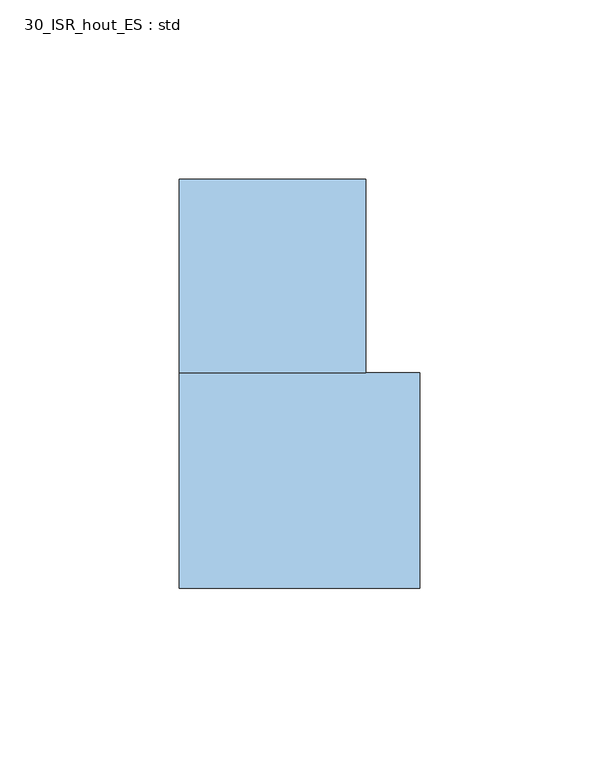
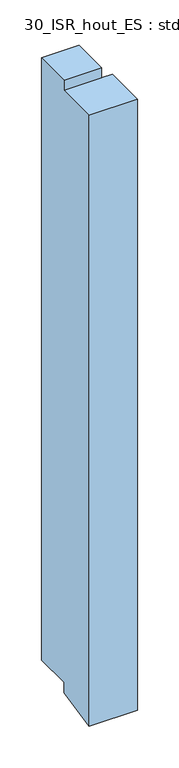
"""IFC4 building model written with IfcOpenShell, lengths in millimetres: window geometry, 30_ISR_hout_ES : std."""

from ifc_helpers import new_model, si_unit, origin, place, context, project, spatial, faceted_brep, source, transform, mapped, element, save


def window_30_isr_hout_es_std_db4e9410(model_context):
    return source(origin(), model_context, "Body", "Brep", [
        faceted_brep([(67.0, 0.0, 54.2466063), (67.0, 0.0, 948.0), (0.0, 0.0, 948.0), (0.0, 0.0, 54.2466063), (67.0, 60.0, 67.0), (67.0, 60.0, 948.0), (0.0, 114.0, 82.0), (0.0, 60.0, 82.0), (0.0, 60.0, 67.0), (0.0, 60.0, 948.0), (0.0, 60.0, 963.0), (0.0, 114.0, 963.0), (52.0, 114.0, 963.0), (52.0, 114.0, 82.0), (52.0, 60.0, 963.0), (52.0, 60.0, 82.0), (52.0, 60.0, 948.0)], [[[0, 1, 2, 3]], [[4, 5, 1, 0]], [[6, 7, 8, 3, 2, 9, 10, 11]], [[12, 13, 6, 11]], [[11, 10, 14, 12]], [[3, 8, 4, 0]], [[15, 16, 5, 4, 8, 7]], [[7, 6, 13, 15]], [[14, 16, 15, 13, 12]], [[16, 14, 10, 9]], [[9, 2, 1, 5, 16]]]),
    ])


if __name__ == "__main__":
    model = new_model("IFC4")
    model_context = context("Model", 3, world=origin())
    ifc_project = project(units=[si_unit("LENGTHUNIT", "METRE", prefix="MILLI")], contexts=[model_context])
    site = spatial("IfcSite", under=ifc_project)
    building = spatial("IfcBuilding", under=site)
    placement = place(None, origin())
    window_30_isr_hout_es_std_shape = window_30_isr_hout_es_std_db4e9410(model_context)
    element("IfcWindow", 1, ObjectType="30_ISR_hout_ES : std", at=placement, inside=building, context=model_context, shape_type="MappedRepresentation", body=[
        mapped(window_30_isr_hout_es_std_shape, transform((0.0, 0.0, 0.0), x_axis=(1.0, 0.0, 0.0), y_axis=(0.0, 1.0, 0.0), z_axis=(0.0, 0.0, 1.0))),
    ])
    save(model, "model.ifc")
